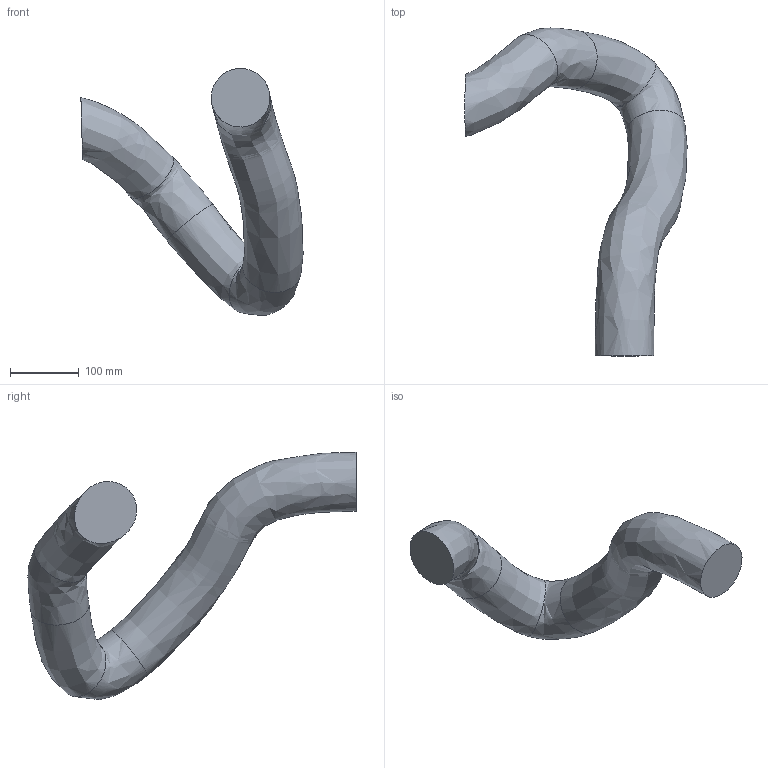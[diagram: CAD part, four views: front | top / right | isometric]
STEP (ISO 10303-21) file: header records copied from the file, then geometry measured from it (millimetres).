
FILE_DESCRIPTION (( 'STEP AP203' ), '1' );
FILE_NAME ('IRB6730S-LID_ALL-400-OC_00_LINK05_CABLE.step', '2025-12-19T13:40:27', ( '' ), ( '' ), 'SwSTEP 2.0', 'SolidWorks 2024', '' );
FILE_SCHEMA (( 'CONFIG_CONTROL_DESIGN' ));
Length unit declared in the file: millimetre
Products named in the file (1): IRB6730S-LID_ALL-400-OC_00_LINK05_CABLE
Bounding box: 322.15 x 475.66 x 358.13 mm (x, y, z)
Volume: 5051432.9 mm3; surface area: 249680.8 mm2
Topology: 1 solids, 1 shells, 7 faces, 11 edges, 6 vertices
Faces by surface type: bspline 5, plane 2
Entity records: 1136 total; most frequent: CARTESIAN_POINT 984, EDGE_LOOP 12, ORIENTED_EDGE 12, FACE_OUTER_BOUND 12, DIRECTION 8, PERSON_AND_ORGANIZATION 8, ADVANCED_FACE 7, EDGE_CURVE 6
